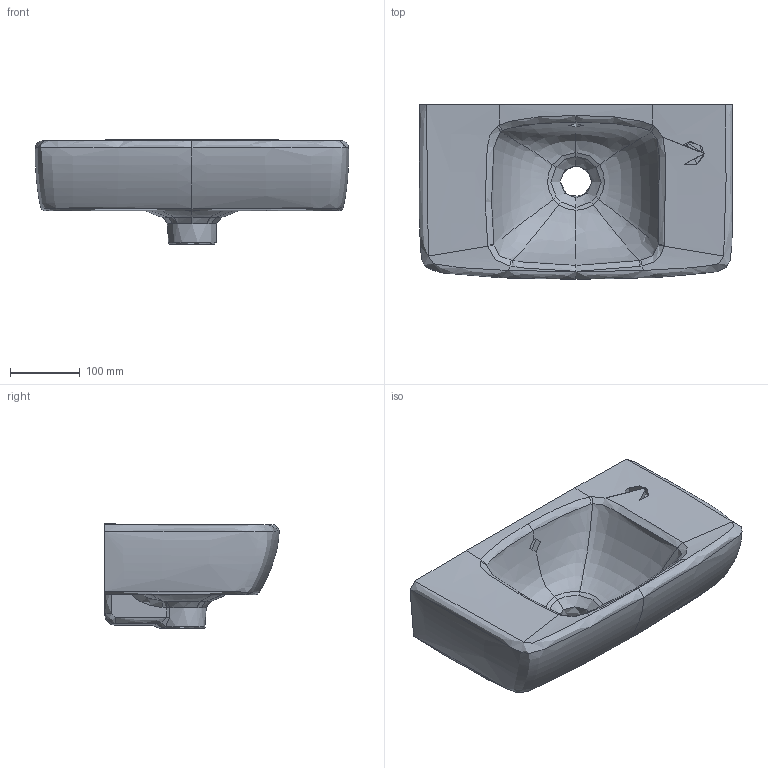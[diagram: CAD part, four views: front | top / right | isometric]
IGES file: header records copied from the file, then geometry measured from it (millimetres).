
Global section: file name: 500318; native system: Autodesk Inventor 2018; preprocessor: unknown; author: JANAN; date: 20200430.122033; units: millimetre
Bounding box: 449.46 x 250 x 149.61 mm (x, y, z)
Volume: 7150898.9 mm3; surface area: 393223.9 mm2
Topology: 1 solids, 1 shells, 112 faces, 271 edges, 163 vertices
Faces by surface type: bspline 112
